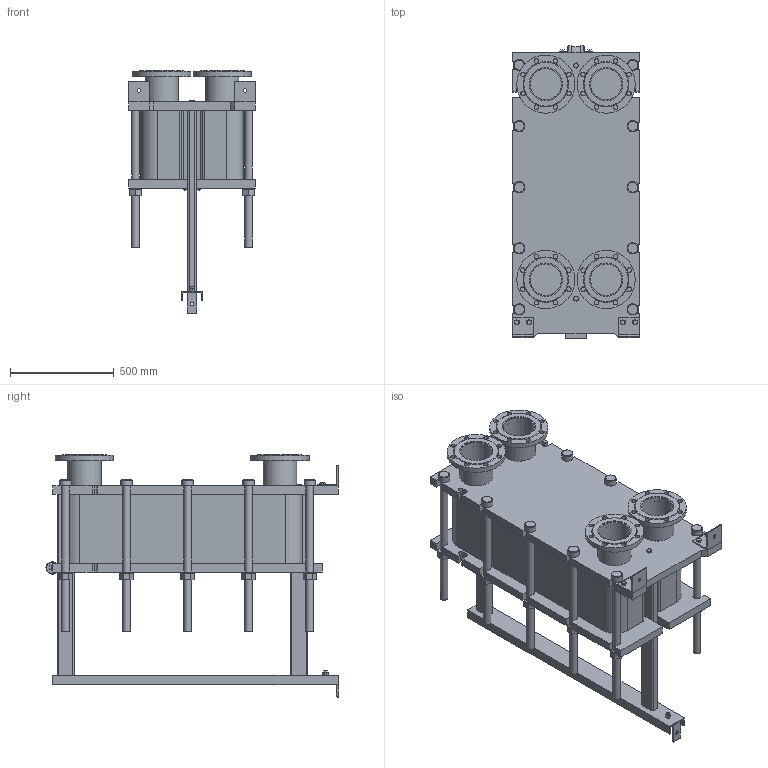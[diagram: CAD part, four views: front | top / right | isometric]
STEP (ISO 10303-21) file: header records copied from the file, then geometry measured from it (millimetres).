
FILE_DESCRIPTION(/* description */ (''),/* implementation_level */ '2;1');
FILE_NAME(/* name */ 'C:\Users\zhuro\Desktop\ENCO\TO\ЭН-041\ЭН-0,5-041-97-1.stp',/* time_stamp */ '2022-06-06T10:57:50+03:00',/* author */ ('zhuro'),/* organization */ (''),/* preprocessor_version */ 'ST-DEVELOPER v18.1',/* originating_system */ 'Autodesk Inventor 2022',/* authorisation */ '');
FILE_SCHEMA (('AUTOMOTIVE_DESIGN { 1 0 10303 214 3 1 1 }'));
Length unit declared in the file: millimetre
Products named in the file (1): ЭН-0,5-041-97-1
Bounding box: 610 x 1406.5 x 1167.5 mm (x, y, z)
Volume: 268481969.6 mm3; surface area: 8958363.6 mm2
Topology: 52 solids, 52 shells, 711 faces, 1696 edges, 1094 vertices
Faces by surface type: plane 487, cylinder 177, cone 41, torus 6
Full cylindrical faces by diameter (mm): 8 x4, 10 x2, 16 x8, 18 x3, 22 x32, 36 x24, 50 x1, 54 x10, 60 x12, 151 x4, 161 x8, 280 x4
Entity records: 22667 total; most frequent: CARTESIAN_POINT 5230, DIRECTION 3644, ORIENTED_EDGE 3392, EDGE_CURVE 1696, AXIS2_PLACEMENT_3D 1272, LINE 1100, VECTOR 1100, VERTEX_POINT 1094
